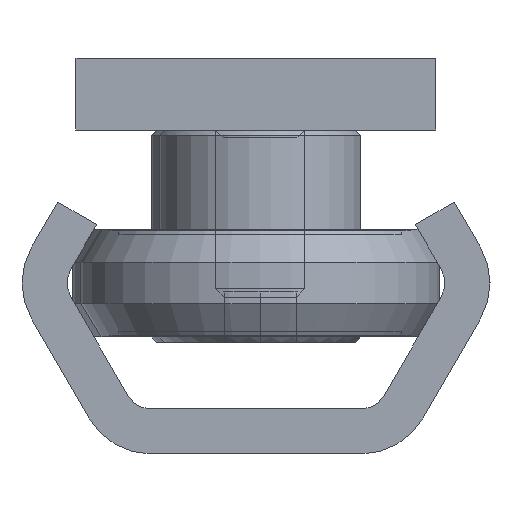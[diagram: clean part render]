
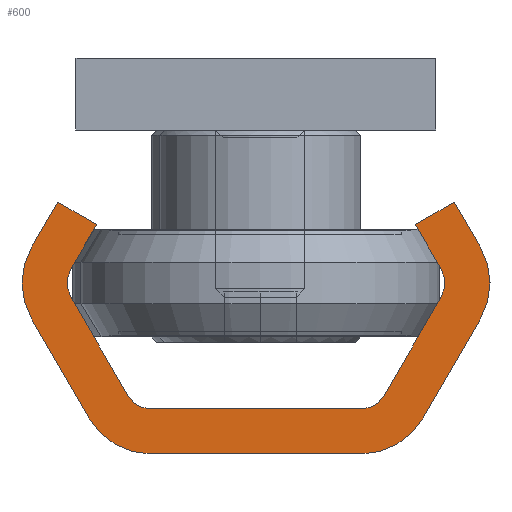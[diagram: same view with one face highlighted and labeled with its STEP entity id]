
A CAD part, left-side view. The second image highlights one B-rep face of the part: STEP entity #600.
In plain terms, the highlighted planar face has unit normal (-1, 0, 0).
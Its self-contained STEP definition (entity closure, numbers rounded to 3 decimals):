
#600 = ADVANCED_FACE( '', ( #1321 ), #1322, .F. );
#1321 = FACE_OUTER_BOUND( '', #2233, .T. );
#1322 = PLANE( '', #2234 );
#2233 = EDGE_LOOP( '', ( #3519, #3520, #3521, #3522, #3523, #3524, #3525, #3526, #3527, #3528, #3529, #3530, #3531, #3532, #3533, #3534, #3535, #3536, #3537, #3538 ) );
#2234 = AXIS2_PLACEMENT_3D( '', #3539, #3540, #3541 );
#3519 = ORIENTED_EDGE( '', *, *, #4335, .F. );
#3520 = ORIENTED_EDGE( '', *, *, #4389, .F. );
#3521 = ORIENTED_EDGE( '', *, *, #4390, .F. );
#3522 = ORIENTED_EDGE( '', *, *, #4391, .F. );
#3523 = ORIENTED_EDGE( '', *, *, #4279, .F. );
#3524 = ORIENTED_EDGE( '', *, *, #4119, .F. );
#3525 = ORIENTED_EDGE( '', *, *, #4258, .F. );
#3526 = ORIENTED_EDGE( '', *, *, #4025, .T. );
#3527 = ORIENTED_EDGE( '', *, *, #4311, .F. );
#3528 = ORIENTED_EDGE( '', *, *, #4392, .T. );
#3529 = ORIENTED_EDGE( '', *, *, #4357, .F. );
#3530 = ORIENTED_EDGE( '', *, *, #4393, .T. );
#3531 = ORIENTED_EDGE( '', *, *, #4030, .F. );
#3532 = ORIENTED_EDGE( '', *, *, #3980, .T. );
#3533 = ORIENTED_EDGE( '', *, *, #4394, .F. );
#3534 = ORIENTED_EDGE( '', *, *, #4395, .F. );
#3535 = ORIENTED_EDGE( '', *, *, #4115, .F. );
#3536 = ORIENTED_EDGE( '', *, *, #4013, .F. );
#3537 = ORIENTED_EDGE( '', *, *, #4285, .F. );
#3538 = ORIENTED_EDGE( '', *, *, #4107, .F. );
#3539 = CARTESIAN_POINT( '', ( 0., -5.825, -4. ) );
#3540 = DIRECTION( '', ( 1., 0., 0. ) );
#3541 = DIRECTION( '', ( 0., 0., -1. ) );
#3980 = EDGE_CURVE( '', #4540, #4541, #4542, .T. );
#4013 = EDGE_CURVE( '', #4597, #4598, #4599, .T. );
#4025 = EDGE_CURVE( '', #4618, #4619, #4620, .T. );
#4030 = EDGE_CURVE( '', #4540, #4627, #4628, .T. );
#4107 = EDGE_CURVE( '', #4748, #4749, #4750, .T. );
#4115 = EDGE_CURVE( '', #4598, #4762, #4763, .T. );
#4119 = EDGE_CURVE( '', #4768, #4769, #4770, .T. );
#4258 = EDGE_CURVE( '', #4618, #4768, #4984, .T. );
#4279 = EDGE_CURVE( '', #4769, #5010, #5011, .T. );
#4285 = EDGE_CURVE( '', #4749, #4597, #5019, .T. );
#4311 = EDGE_CURVE( '', #5054, #4619, #5055, .T. );
#4335 = EDGE_CURVE( '', #5096, #4748, #5097, .T. );
#4357 = EDGE_CURVE( '', #5137, #5138, #5139, .T. );
#4389 = EDGE_CURVE( '', #5179, #5096, #5180, .T. );
#4390 = EDGE_CURVE( '', #5181, #5179, #5182, .T. );
#4391 = EDGE_CURVE( '', #5010, #5181, #5183, .T. );
#4392 = EDGE_CURVE( '', #5054, #5138, #5184, .T. );
#4393 = EDGE_CURVE( '', #5137, #4627, #5185, .T. );
#4394 = EDGE_CURVE( '', #5186, #4541, #5187, .T. );
#4395 = EDGE_CURVE( '', #4762, #5186, #5188, .T. );
#4540 = VERTEX_POINT( '', #5346 );
#4541 = VERTEX_POINT( '', #5347 );
#4542 = CIRCLE( '', #5348, 1.5 );
#4597 = VERTEX_POINT( '', #5413 );
#4598 = VERTEX_POINT( '', #5414 );
#4599 = CIRCLE( '', #5415, 4. );
#4618 = VERTEX_POINT( '', #5438 );
#4619 = VERTEX_POINT( '', #5439 );
#4620 = CIRCLE( '', #5440, 1.5 );
#4627 = VERTEX_POINT( '', #5449 );
#4628 = LINE( '', #5450, #5451 );
#4748 = VERTEX_POINT( '', #5597 );
#4749 = VERTEX_POINT( '', #5598 );
#4750 = CIRCLE( '', #5599, 4. );
#4762 = VERTEX_POINT( '', #5613 );
#4763 = LINE( '', #5614, #5615 );
#4768 = VERTEX_POINT( '', #5622 );
#4769 = VERTEX_POINT( '', #5623 );
#4770 = LINE( '', #5624, #5625 );
#4984 = LINE( '', #5882, #5883 );
#5010 = VERTEX_POINT( '', #5910 );
#5011 = LINE( '', #5911, #5912 );
#5019 = LINE( '', #5921, #5922 );
#5054 = VERTEX_POINT( '', #5960 );
#5055 = LINE( '', #5961, #5962 );
#5096 = VERTEX_POINT( '', #6004 );
#5097 = LINE( '', #6005, #6006 );
#5137 = VERTEX_POINT( '', #6047 );
#5138 = VERTEX_POINT( '', #6048 );
#5139 = LINE( '', #6049, #6050 );
#5179 = VERTEX_POINT( '', #6098 );
#5180 = CIRCLE( '', #6099, 4. );
#5181 = VERTEX_POINT( '', #6100 );
#5182 = LINE( '', #6101, #6102 );
#5183 = CIRCLE( '', #6103, 4. );
#5184 = CIRCLE( '', #6104, 1.5 );
#5185 = CIRCLE( '', #6105, 1.5 );
#5186 = VERTEX_POINT( '', #6106 );
#5187 = LINE( '', #6107, #6108 );
#5188 = LINE( '', #6109, #6110 );
#5346 = CARTESIAN_POINT( '', ( 0., -10.299, -8.75 ) );
#5347 = CARTESIAN_POINT( '', ( 0., -10.299, -10.25 ) );
#5348 = AXIS2_PLACEMENT_3D( '', #6278, #6279, #6280 );
#5413 = CARTESIAN_POINT( '', ( 0., -12.464, -7.5 ) );
#5414 = CARTESIAN_POINT( '', ( 0., -12.464, -11.5 ) );
#5415 = AXIS2_PLACEMENT_3D( '', #6330, #6331, #6332 );
#5438 = CARTESIAN_POINT( '', ( 0., 10.299, -10.25 ) );
#5439 = CARTESIAN_POINT( '', ( 0., 10.299, -8.75 ) );
#5440 = AXIS2_PLACEMENT_3D( '', #6349, #6350, #6351 );
#5449 = CARTESIAN_POINT( '', ( 0., -7.124, -3.25 ) );
#5450 = CARTESIAN_POINT( '', ( 0., -10.299, -8.75 ) );
#5451 = VECTOR( '', #6357, 1000. );
#5597 = CARTESIAN_POINT( '', ( 0., -5.825, 0. ) );
#5598 = CARTESIAN_POINT( '', ( 0., -9.289, -2. ) );
#5599 = AXIS2_PLACEMENT_3D( '', #6480, #6481, #6482 );
#5613 = CARTESIAN_POINT( '', ( 0., -11.021, -14. ) );
#5614 = CARTESIAN_POINT( '', ( 0., -12.464, -11.5 ) );
#5615 = VECTOR( '', #6494, 1000. );
#5622 = CARTESIAN_POINT( '', ( 0., 8.856, -12.75 ) );
#5623 = CARTESIAN_POINT( '', ( 0., 11.021, -14. ) );
#5624 = CARTESIAN_POINT( '', ( 0., 8.856, -12.75 ) );
#5625 = VECTOR( '', #6497, 1000. );
#5882 = CARTESIAN_POINT( '', ( 0., 10.299, -10.25 ) );
#5883 = VECTOR( '', #6700, 1000. );
#5910 = CARTESIAN_POINT( '', ( 0., 12.464, -11.5 ) );
#5911 = CARTESIAN_POINT( '', ( 0., 11.021, -14. ) );
#5912 = VECTOR( '', #6738, 1000. );
#5921 = CARTESIAN_POINT( '', ( 0., -9.289, -2. ) );
#5922 = VECTOR( '', #6746, 1000. );
#5960 = CARTESIAN_POINT( '', ( 0., 7.124, -3.25 ) );
#5961 = CARTESIAN_POINT( '', ( 0., 7.124, -3.25 ) );
#5962 = VECTOR( '', #6777, 1000. );
#6004 = CARTESIAN_POINT( '', ( 0., 5.825, 0. ) );
#6005 = CARTESIAN_POINT( '', ( 0., 5.825, 0. ) );
#6006 = VECTOR( '', #6833, 1000. );
#6047 = CARTESIAN_POINT( '', ( 0., -5.825, -2.5 ) );
#6048 = CARTESIAN_POINT( '', ( 0., 5.825, -2.5 ) );
#6049 = CARTESIAN_POINT( '', ( 0., -5.825, -2.5 ) );
#6050 = VECTOR( '', #6889, 1000. );
#6098 = CARTESIAN_POINT( '', ( 0., 9.289, -2. ) );
#6099 = AXIS2_PLACEMENT_3D( '', #6919, #6920, #6921 );
#6100 = CARTESIAN_POINT( '', ( 0., 12.464, -7.5 ) );
#6101 = CARTESIAN_POINT( '', ( 0., 12.464, -7.5 ) );
#6102 = VECTOR( '', #6922, 1000. );
#6103 = AXIS2_PLACEMENT_3D( '', #6923, #6924, #6925 );
#6104 = AXIS2_PLACEMENT_3D( '', #6926, #6927, #6928 );
#6105 = AXIS2_PLACEMENT_3D( '', #6929, #6930, #6931 );
#6106 = CARTESIAN_POINT( '', ( 0., -8.856, -12.75 ) );
#6107 = CARTESIAN_POINT( '', ( 0., -8.856, -12.75 ) );
#6108 = VECTOR( '', #6932, 1000. );
#6109 = CARTESIAN_POINT( '', ( 0., -11.021, -14. ) );
#6110 = VECTOR( '', #6933, 1000. );
#6278 = CARTESIAN_POINT( '', ( 0., -9., -9.5 ) );
#6279 = DIRECTION( '', ( 1., 0., 0. ) );
#6280 = DIRECTION( '', ( 0., 0., -1. ) );
#6330 = CARTESIAN_POINT( '', ( 0., -9., -9.5 ) );
#6331 = DIRECTION( '', ( 1., 0., 0. ) );
#6332 = DIRECTION( '', ( 0., 0., -1. ) );
#6349 = CARTESIAN_POINT( '', ( 0., 9., -9.5 ) );
#6350 = DIRECTION( '', ( 1., 0., 0. ) );
#6351 = DIRECTION( '', ( 0., 0., -1. ) );
#6357 = DIRECTION( '', ( 0., 0.5, 0.866 ) );
#6480 = CARTESIAN_POINT( '', ( 0., -5.825, -4. ) );
#6481 = DIRECTION( '', ( 1., 0., 0. ) );
#6482 = DIRECTION( '', ( 0., 0., -1. ) );
#6494 = DIRECTION( '', ( 0., 0.5, -0.866 ) );
#6497 = DIRECTION( '', ( 0., 0.866, -0.5 ) );
#6700 = DIRECTION( '', ( 0., -0.5, -0.866 ) );
#6738 = DIRECTION( '', ( 0., 0.5, 0.866 ) );
#6746 = DIRECTION( '', ( 0., -0.5, -0.866 ) );
#6777 = DIRECTION( '', ( 0., 0.5, -0.866 ) );
#6833 = DIRECTION( '', ( 0., -1., 0. ) );
#6889 = DIRECTION( '', ( 0., 1., 0. ) );
#6919 = CARTESIAN_POINT( '', ( 0., 5.825, -4. ) );
#6920 = DIRECTION( '', ( 1., 0., 0. ) );
#6921 = DIRECTION( '', ( 0., 0., -1. ) );
#6922 = DIRECTION( '', ( 0., -0.5, 0.866 ) );
#6923 = CARTESIAN_POINT( '', ( 0., 9., -9.5 ) );
#6924 = DIRECTION( '', ( 1., 0., 0. ) );
#6925 = DIRECTION( '', ( 0., 0., -1. ) );
#6926 = CARTESIAN_POINT( '', ( 0., 5.825, -4. ) );
#6927 = DIRECTION( '', ( 1., 0., 0. ) );
#6928 = DIRECTION( '', ( 0., 0., -1. ) );
#6929 = CARTESIAN_POINT( '', ( 0., -5.825, -4. ) );
#6930 = DIRECTION( '', ( 1., 0., 0. ) );
#6931 = DIRECTION( '', ( 0., 0., -1. ) );
#6932 = DIRECTION( '', ( 0., -0.5, 0.866 ) );
#6933 = DIRECTION( '', ( 0., 0.866, 0.5 ) );
